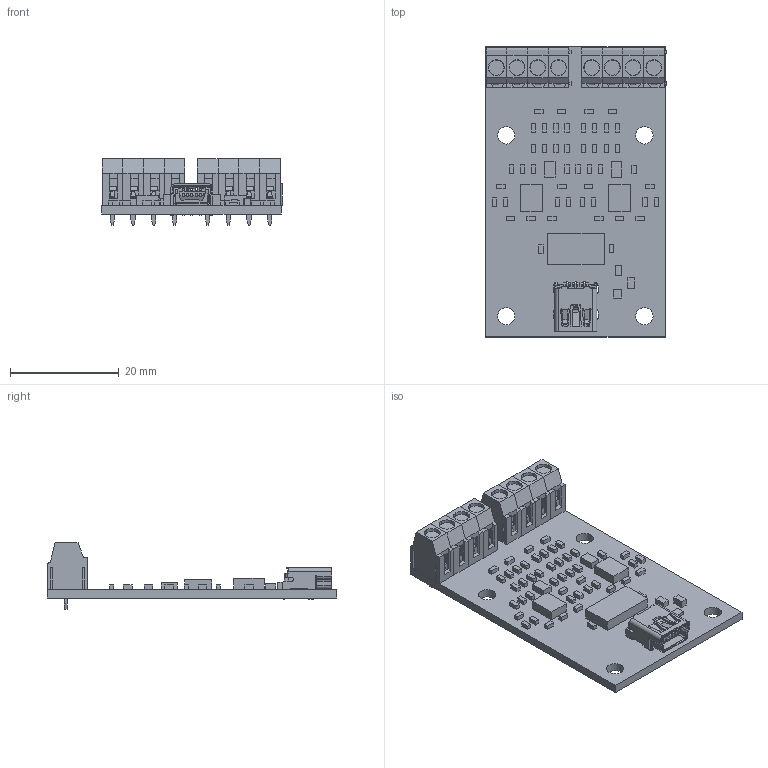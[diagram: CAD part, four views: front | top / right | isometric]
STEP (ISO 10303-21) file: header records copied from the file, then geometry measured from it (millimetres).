
FILE_DESCRIPTION(('Open CASCADE Model'),'2;1');
FILE_NAME('Open CASCADE Shape Model','2010-10-27T12:44:24',('Author'),( 'Open CASCADE'),'Open CASCADE STEP processor 6.2','Open CASCADE 6.2' ,'Unknown');
FILE_SCHEMA(('AUTOMOTIVE_DESIGN { 1 0 10303 214 1 1 1 1 }'));
Length unit declared in the file: millimetre
Products named in the file (83): PCB; Board; C1; 489472960; Extruded; C2; C3; 489473088; C4; C5; C6; C7; C8; C9; C10; 489488320; C11; C12; C13; C14; C15; C16; C17; J1; 20020327-d04_asm; 20020327-D-LEM; 20020327-D-REM; J2; J6; 548190519; Open CASCADE STEP translator 6.2 183.21.1.1; Open CASCADE STEP translator 6.2 183.21.1.2; L1; 489473472; R1; R2; R3; R4; R5; R6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
Assembly tree (134 placements, depth 4):
  PCB
    Board
    C1
      489472960
        Extruded
    C2
      489472960
        Extruded
    C3
      489473088
        Extruded
    C4
      489473088
        Extruded
    C5
      489473088
        Extruded
    C6
      489473088
        Extruded
    C7
      489473088
        Extruded
    C8
      489473088
        Extruded
    C9
      489473088
        Extruded
    C10
      489488320
        Extruded
    C11
      489473088
        Extruded
    C12
      489473088
        Extruded
    C13
      489473088
        Extruded
    C14
      489473088
        Extruded
    C15
      489473088
        Extruded
    C16
      489473088
        Extruded
    C17
      489473088
        Extruded
    J1
      20020327-d04_asm
        20020327-D-LEM
        20020327-D-REM  x4
    J2
      20020327-d04_asm
        20020327-D-LEM
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Bounding box: 33.24 x 53.34 x 12.31 mm (x, y, z)
Volume: 4667.6 mm3; surface area: 7929.4 mm2
Topology: 78 solids, 78 shells, 1719 faces, 4432 edges, 2880 vertices
Faces by surface type: plane 1456, cylinder 221, cone 24, bspline 18
Full cylindrical faces by diameter (mm): 0.8 x5, 1.321 x8, 3.175 x4
Entity records: 48398 total; most frequent: CARTESIAN_POINT 12041, DIRECTION 6416, LINE 4343, VECTOR 4343, ORIENTED_EDGE 3498, PCURVE 3498, DEFINITIONAL_REPRESENTATION 3498, EDGE_CURVE 1749
